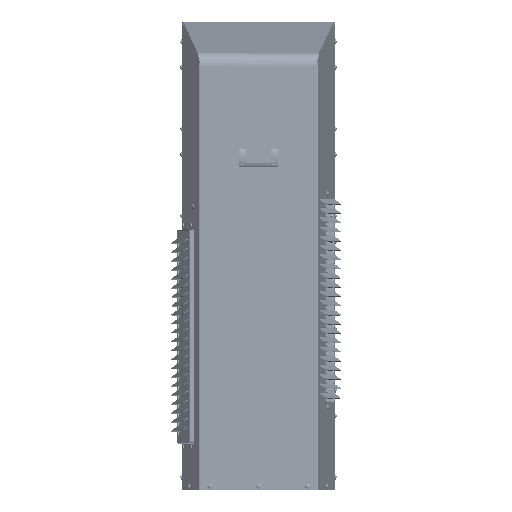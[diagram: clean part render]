
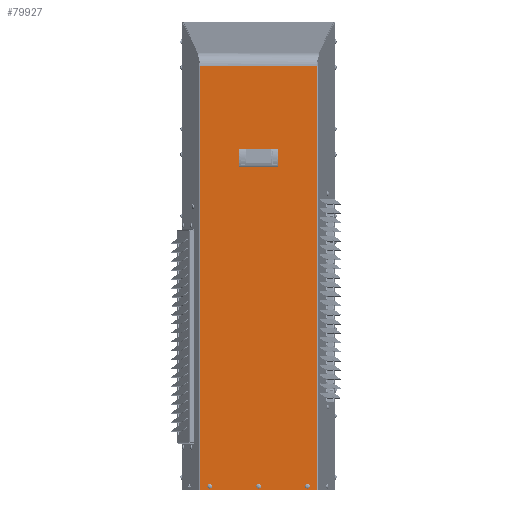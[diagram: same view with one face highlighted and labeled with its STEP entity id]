
A CAD part, front view. The second image highlights one B-rep face of the part: STEP entity #79927.
In plain terms, the highlighted planar face has unit normal (0, -1, 0) as drawn and (0, 1, 0) by its records, which use the part's own axes.
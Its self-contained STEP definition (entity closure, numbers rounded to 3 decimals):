
#2666=PLANE('',#91514);
#7553=LINE('',#132146,#15246);
#7556=LINE('',#132155,#15249);
#7607=LINE('',#132380,#15300);
#7629=LINE('',#132423,#15322);
#7633=LINE('',#132431,#15326);
#7636=LINE('',#132437,#15329);
#7638=LINE('',#132440,#15331);
#7649=LINE('',#132465,#15342);
#7654=LINE('',#132479,#15347);
#7657=LINE('',#132489,#15350);
#7662=LINE('',#132503,#15355);
#7784=LINE('',#132841,#15477);
#7785=LINE('',#132845,#15478);
#7786=LINE('',#132847,#15479);
#15246=VECTOR('',#105951,39.37);
#15249=VECTOR('',#105962,39.37);
#15300=VECTOR('',#106093,39.37);
#15322=VECTOR('',#106135,39.37);
#15326=VECTOR('',#106141,39.37);
#15329=VECTOR('',#106146,39.37);
#15331=VECTOR('',#106150,39.37);
#15342=VECTOR('',#106167,39.37);
#15347=VECTOR('',#106180,39.37);
#15350=VECTOR('',#106191,39.37);
#15355=VECTOR('',#106204,39.37);
#15477=VECTOR('',#106542,39.37);
#15478=VECTOR('',#106547,39.37);
#15479=VECTOR('',#106548,39.37);
#29541=ORIENTED_EDGE('',*,*,#47678,.T.);
#29542=ORIENTED_EDGE('',*,*,#47437,.F.);
#29543=ORIENTED_EDGE('',*,*,#47676,.F.);
#29544=ORIENTED_EDGE('',*,*,#47679,.F.);
#29545=ORIENTED_EDGE('',*,*,#47502,.F.);
#29546=ORIENTED_EDGE('',*,*,#47504,.F.);
#29547=ORIENTED_EDGE('',*,*,#47495,.F.);
#29548=ORIENTED_EDGE('',*,*,#47499,.F.);
#29549=ORIENTED_EDGE('',*,*,#47490,.F.);
#29550=ORIENTED_EDGE('',*,*,#47492,.F.);
#29551=ORIENTED_EDGE('',*,*,#47483,.F.);
#29552=ORIENTED_EDGE('',*,*,#47487,.F.);
#29553=ORIENTED_EDGE('',*,*,#47470,.F.);
#29554=ORIENTED_EDGE('',*,*,#47472,.F.);
#29555=ORIENTED_EDGE('',*,*,#47463,.F.);
#29556=ORIENTED_EDGE('',*,*,#47467,.F.);
#29557=ORIENTED_EDGE('',*,*,#47360,.F.);
#29558=ORIENTED_EDGE('',*,*,#47362,.F.);
#29559=ORIENTED_EDGE('',*,*,#47353,.F.);
#29560=ORIENTED_EDGE('',*,*,#47357,.F.);
#47353=EDGE_CURVE('',#57020,#57021,#62523,.T.);
#47357=EDGE_CURVE('',#57023,#57020,#7553,.T.);
#47360=EDGE_CURVE('',#57025,#57023,#62525,.T.);
#47362=EDGE_CURVE('',#57021,#57025,#7556,.T.);
#47437=EDGE_CURVE('',#57066,#57059,#7607,.T.);
#47463=EDGE_CURVE('',#57088,#57089,#7629,.T.);
#47467=EDGE_CURVE('',#57091,#57088,#7633,.T.);
#47470=EDGE_CURVE('',#57093,#57091,#7636,.T.);
#47472=EDGE_CURVE('',#57089,#57093,#7638,.T.);
#47483=EDGE_CURVE('',#57104,#57105,#7649,.T.);
#47487=EDGE_CURVE('',#57107,#57104,#62543,.T.);
#47490=EDGE_CURVE('',#57109,#57107,#7654,.T.);
#47492=EDGE_CURVE('',#57105,#57109,#62545,.T.);
#47495=EDGE_CURVE('',#57112,#57113,#7657,.T.);
#47499=EDGE_CURVE('',#57115,#57112,#62547,.T.);
#47502=EDGE_CURVE('',#57117,#57115,#7662,.T.);
#47504=EDGE_CURVE('',#57113,#57117,#62549,.T.);
#47676=EDGE_CURVE('',#57226,#57066,#7784,.T.);
#47678=EDGE_CURVE('',#57227,#57059,#7785,.T.);
#47679=EDGE_CURVE('',#57227,#57226,#7786,.T.);
#57020=VERTEX_POINT('',#132137);
#57021=VERTEX_POINT('',#132139);
#57023=VERTEX_POINT('',#132145);
#57025=VERTEX_POINT('',#132151);
#57059=VERTEX_POINT('',#132321);
#57066=VERTEX_POINT('',#132338);
#57088=VERTEX_POINT('',#132422);
#57089=VERTEX_POINT('',#132424);
#57091=VERTEX_POINT('',#132430);
#57093=VERTEX_POINT('',#132436);
#57104=VERTEX_POINT('',#132464);
#57105=VERTEX_POINT('',#132466);
#57107=VERTEX_POINT('',#132472);
#57109=VERTEX_POINT('',#132478);
#57112=VERTEX_POINT('',#132488);
#57113=VERTEX_POINT('',#132490);
#57115=VERTEX_POINT('',#132496);
#57117=VERTEX_POINT('',#132502);
#57226=VERTEX_POINT('',#132842);
#57227=VERTEX_POINT('',#132846);
#62523=CIRCLE('',#91331,0.1);
#62525=CIRCLE('',#91335,0.1);
#62543=CIRCLE('',#91395,0.1);
#62545=CIRCLE('',#91399,0.1);
#62547=CIRCLE('',#91403,0.1);
#62549=CIRCLE('',#91407,0.1);
#67111=EDGE_LOOP('',(#29541,#29542,#29543,#29544));
#67112=EDGE_LOOP('',(#29545,#29546,#29547,#29548));
#67113=EDGE_LOOP('',(#29549,#29550,#29551,#29552));
#67114=EDGE_LOOP('',(#29553,#29554,#29555,#29556));
#67115=EDGE_LOOP('',(#29557,#29558,#29559,#29560));
#73130=FACE_BOUND('',#67111,.T.);
#73131=FACE_BOUND('',#67112,.T.);
#73132=FACE_BOUND('',#67113,.T.);
#73133=FACE_BOUND('',#67114,.T.);
#73134=FACE_BOUND('',#67115,.T.);
#79927=ADVANCED_FACE('',(#73130,#73131,#73132,#73133,#73134),#2666,.F.);
#91331=AXIS2_PLACEMENT_3D('',#132138,#105944,#105945);
#91335=AXIS2_PLACEMENT_3D('',#132152,#105957,#105958);
#91395=AXIS2_PLACEMENT_3D('',#132473,#106174,#106175);
#91399=AXIS2_PLACEMENT_3D('',#132482,#106185,#106186);
#91403=AXIS2_PLACEMENT_3D('',#132497,#106198,#106199);
#91407=AXIS2_PLACEMENT_3D('',#132506,#106209,#106210);
#91514=AXIS2_PLACEMENT_3D('',#132844,#106545,#106546);
#105944=DIRECTION('',(0.,1.,0.));
#105945=DIRECTION('',(1.,0.,0.));
#105951=DIRECTION('',(0.,0.,-1.));
#105957=DIRECTION('',(0.,1.,0.));
#105958=DIRECTION('',(-1.,0.,0.));
#105962=DIRECTION('',(0.,0.,1.));
#106093=DIRECTION('',(-1.,0.,0.));
#106135=DIRECTION('',(1.,0.,0.));
#106141=DIRECTION('',(0.,0.,1.));
#106146=DIRECTION('',(-1.,0.,0.));
#106150=DIRECTION('',(0.,0.,-1.));
#106167=DIRECTION('',(0.,0.,1.));
#106174=DIRECTION('',(0.,1.,0.));
#106175=DIRECTION('',(1.,0.,0.));
#106180=DIRECTION('',(0.,0.,-1.));
#106185=DIRECTION('',(0.,1.,0.));
#106186=DIRECTION('',(-1.,0.,0.));
#106191=DIRECTION('',(0.,0.,1.));
#106198=DIRECTION('',(0.,1.,0.));
#106199=DIRECTION('',(1.,0.,0.));
#106204=DIRECTION('',(0.,0.,-1.));
#106209=DIRECTION('',(0.,1.,0.));
#106210=DIRECTION('',(-1.,0.,0.));
#106542=DIRECTION('',(0.,0.,1.));
#106545=DIRECTION('',(0.,-1.,0.));
#106546=DIRECTION('',(0.,0.,-1.));
#106547=DIRECTION('',(0.,0.,1.));
#106548=DIRECTION('',(1.,0.,0.));
#132137=CARTESIAN_POINT('',(-3.65,14.96,0.21));
#132138=CARTESIAN_POINT('',(-3.75,14.96,0.21));
#132139=CARTESIAN_POINT('',(-3.85,14.96,0.21));
#132145=CARTESIAN_POINT('',(-3.65,14.96,0.31));
#132146=CARTESIAN_POINT('',(-3.65,14.96,0.31));
#132151=CARTESIAN_POINT('',(-3.85,14.96,0.31));
#132152=CARTESIAN_POINT('',(-3.75,14.96,0.31));
#132155=CARTESIAN_POINT('',(-3.85,14.96,0.21));
#132321=CARTESIAN_POINT('',(-4.508,14.96,32.587));
#132338=CARTESIAN_POINT('',(4.508,14.96,32.587));
#132380=CARTESIAN_POINT('',(-4.589,14.96,32.587));
#132422=CARTESIAN_POINT('',(-1.398,14.96,26.172));
#132423=CARTESIAN_POINT('',(-1.398,14.96,26.172));
#132424=CARTESIAN_POINT('',(1.397,14.96,26.172));
#132430=CARTESIAN_POINT('',(-1.398,14.96,25.));
#132431=CARTESIAN_POINT('',(-1.398,14.96,25.));
#132436=CARTESIAN_POINT('',(1.397,14.96,25.));
#132437=CARTESIAN_POINT('',(1.397,14.96,25.));
#132440=CARTESIAN_POINT('',(1.397,14.96,26.172));
#132464=CARTESIAN_POINT('',(-0.1,14.96,0.21));
#132465=CARTESIAN_POINT('',(-0.1,14.96,0.21));
#132466=CARTESIAN_POINT('',(-0.1,14.96,0.31));
#132472=CARTESIAN_POINT('',(0.1,14.96,0.21));
#132473=CARTESIAN_POINT('',(0.,14.96,0.21));
#132478=CARTESIAN_POINT('',(0.1,14.96,0.31));
#132479=CARTESIAN_POINT('',(0.1,14.96,0.31));
#132482=CARTESIAN_POINT('',(0.,14.96,0.31));
#132488=CARTESIAN_POINT('',(3.65,14.96,0.21));
#132489=CARTESIAN_POINT('',(3.65,14.96,0.21));
#132490=CARTESIAN_POINT('',(3.65,14.96,0.31));
#132496=CARTESIAN_POINT('',(3.85,14.96,0.21));
#132497=CARTESIAN_POINT('',(3.75,14.96,0.21));
#132502=CARTESIAN_POINT('',(3.85,14.96,0.31));
#132503=CARTESIAN_POINT('',(3.85,14.96,0.31));
#132506=CARTESIAN_POINT('',(3.75,14.96,0.31));
#132841=CARTESIAN_POINT('',(4.508,14.96,0.));
#132842=CARTESIAN_POINT('',(4.508,14.96,0.));
#132844=CARTESIAN_POINT('',(-4.589,14.96,0.));
#132845=CARTESIAN_POINT('',(-4.508,14.96,0.));
#132846=CARTESIAN_POINT('',(-4.508,14.96,0.));
#132847=CARTESIAN_POINT('',(-4.589,14.96,0.));
